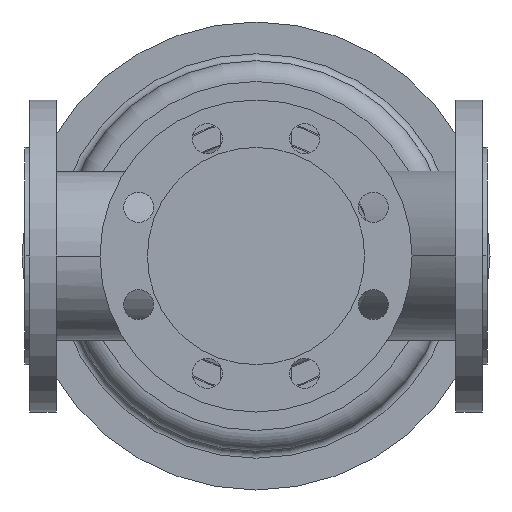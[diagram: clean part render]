
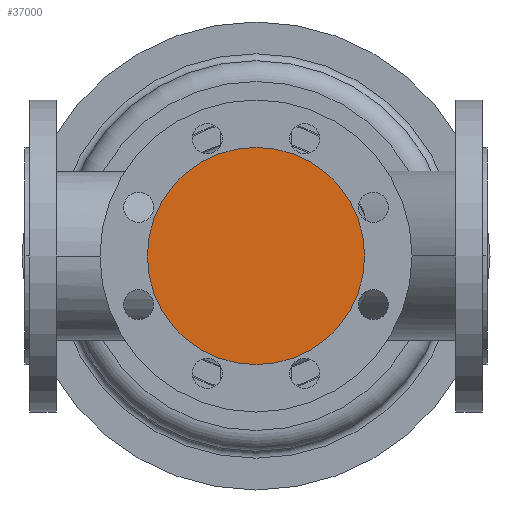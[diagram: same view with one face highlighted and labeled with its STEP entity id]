
A CAD part, front view. The second image highlights one B-rep face of the part: STEP entity #37000.
In plain terms, the highlighted planar face has unit normal (0, -1, 0).
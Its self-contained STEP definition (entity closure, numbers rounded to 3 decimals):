
#5230=CARTESIAN_POINT('',(106.,-200.,0.));
#5240=VERTEX_POINT('',#5230);
#5270=CARTESIAN_POINT('',(200.,-200.,0.));
#5280=DIRECTION('',(0.,1.,0.));
#5290=DIRECTION('',(1.,0.,0.));
#5300=AXIS2_PLACEMENT_3D('',#5270,#5280,#5290);
#5310=CIRCLE('',#5300,94.);
#5320=CARTESIAN_POINT('',(294.,-200.,0.));
#5330=VERTEX_POINT('',#5320);
#5340=EDGE_CURVE('',#5330,#5240,#5310,.T.);
#36900=CARTESIAN_POINT('',(247.,-200.,0.));
#36910=DIRECTION('',(0.,-1.,0.));
#36920=DIRECTION('',(-1.,0.,0.));
#36930=AXIS2_PLACEMENT_3D('',#36900,#36910,#36920);
#36940=PLANE('',#36930);
#36950=EDGE_CURVE('',#5240,#5330,#5310,.T.);
#36960=ORIENTED_EDGE('',*,*,#36950,.F.);
#36970=ORIENTED_EDGE('',*,*,#5340,.F.);
#36980=EDGE_LOOP('',(#36970,#36960));
#36990=FACE_OUTER_BOUND('',#36980,.T.);
#37000=ADVANCED_FACE('',(#36990),#36940,.T.);
